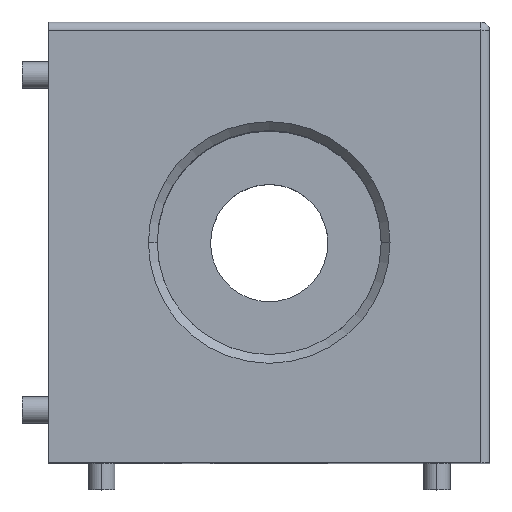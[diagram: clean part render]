
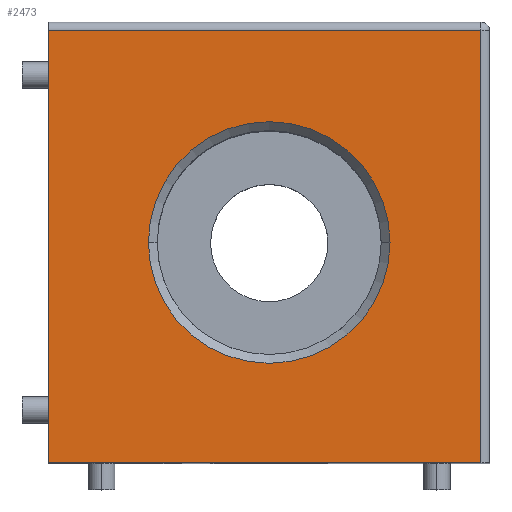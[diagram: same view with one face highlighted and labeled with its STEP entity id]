
A CAD part, top view. The second image highlights one B-rep face of the part: STEP entity #2473.
In plain terms, the highlighted planar face has unit normal (0, 0, 1).
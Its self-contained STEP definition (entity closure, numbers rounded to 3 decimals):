
#91 = AXIS2_PLACEMENT_3D ( 'NONE', #769, #1861, #185 ) ;
#118 = CARTESIAN_POINT ( 'NONE',  ( -12.5, -12.5, 12.5 ) ) ;
#185 = DIRECTION ( 'NONE',  ( -1., 0., 0. ) ) ;
#201 = VECTOR ( 'NONE', #1009, 1000. ) ;
#421 = EDGE_CURVE ( 'NONE', #1527, #2511, #2267, .T. ) ;
#495 = VERTEX_POINT ( 'NONE', #2709 ) ;
#588 = CARTESIAN_POINT ( 'NONE',  ( 0., 0., 12.5 ) ) ;
#636 = DIRECTION ( 'NONE',  ( 1., 0., 0. ) ) ;
#683 = CARTESIAN_POINT ( 'NONE',  ( 12., -12.5, 12.5 ) ) ;
#709 = ORIENTED_EDGE ( 'NONE', *, *, #1048, .T. ) ;
#769 = CARTESIAN_POINT ( 'NONE',  ( 0., 0., 12.5 ) ) ;
#895 = VERTEX_POINT ( 'NONE', #1099 ) ;
#1009 = DIRECTION ( 'NONE',  ( -1., 0., 0. ) ) ;
#1041 = CARTESIAN_POINT ( 'NONE',  ( -12.5, 12., 12.5 ) ) ;
#1048 = EDGE_CURVE ( 'NONE', #895, #495, #2786, .T. ) ;
#1099 = CARTESIAN_POINT ( 'NONE',  ( 6.85, 0., 12.5 ) ) ;
#1181 = CARTESIAN_POINT ( 'NONE',  ( 12., 12., 12.5 ) ) ;
#1182 = ORIENTED_EDGE ( 'NONE', *, *, #421, .T. ) ;
#1227 = DIRECTION ( 'NONE',  ( 0., 0., -1. ) ) ;
#1247 = AXIS2_PLACEMENT_3D ( 'NONE', #588, #2844, #1684 ) ;
#1274 = EDGE_CURVE ( 'NONE', #2511, #1884, #1332, .T. ) ;
#1297 = VECTOR ( 'NONE', #1869, 1000. ) ;
#1332 = LINE ( 'NONE', #2419, #1468 ) ;
#1377 = EDGE_LOOP ( 'NONE', ( #1182, #1633, #2636, #3383 ) ) ;
#1468 = VECTOR ( 'NONE', #2983, 1000. ) ;
#1497 = PLANE ( 'NONE',  #3447 ) ;
#1516 = CARTESIAN_POINT ( 'NONE',  ( -12.5, 12.5, 12.5 ) ) ;
#1527 = VERTEX_POINT ( 'NONE', #118 ) ;
#1544 = EDGE_LOOP ( 'NONE', ( #709, #2555 ) ) ;
#1622 = LINE ( 'NONE', #3299, #1297 ) ;
#1633 = ORIENTED_EDGE ( 'NONE', *, *, #1274, .T. ) ;
#1684 = DIRECTION ( 'NONE',  ( -1., 0., 0. ) ) ;
#1747 = CARTESIAN_POINT ( 'NONE',  ( -12.5, 12., 12.5 ) ) ;
#1861 = DIRECTION ( 'NONE',  ( 0., 0., -1. ) ) ;
#1869 = DIRECTION ( 'NONE',  ( 0., -1., 0. ) ) ;
#1884 = VERTEX_POINT ( 'NONE', #1181 ) ;
#2018 = FACE_BOUND ( 'NONE', #1544, .T. ) ;
#2098 = VERTEX_POINT ( 'NONE', #1747 ) ;
#2246 = EDGE_CURVE ( 'NONE', #1884, #2098, #3264, .T. ) ;
#2267 = LINE ( 'NONE', #2287, #3429 ) ;
#2270 = FACE_OUTER_BOUND ( 'NONE', #1377, .T. ) ;
#2287 = CARTESIAN_POINT ( 'NONE',  ( -12.5, -12.5, 12.5 ) ) ;
#2419 = CARTESIAN_POINT ( 'NONE',  ( 12., 12.5, 12.5 ) ) ;
#2473 = ADVANCED_FACE ( 'NONE', ( #2018, #2270 ), #1497, .F. ) ;
#2511 = VERTEX_POINT ( 'NONE', #683 ) ;
#2555 = ORIENTED_EDGE ( 'NONE', *, *, #2641, .T. ) ;
#2636 = ORIENTED_EDGE ( 'NONE', *, *, #2246, .T. ) ;
#2641 = EDGE_CURVE ( 'NONE', #495, #895, #3445, .T. ) ;
#2709 = CARTESIAN_POINT ( 'NONE',  ( -6.85, 0., 12.5 ) ) ;
#2786 = CIRCLE ( 'NONE', #1247, 6.85 ) ;
#2844 = DIRECTION ( 'NONE',  ( 0., 0., -1. ) ) ;
#2983 = DIRECTION ( 'NONE',  ( 0., 1., 0. ) ) ;
#3264 = LINE ( 'NONE', #1041, #201 ) ;
#3299 = CARTESIAN_POINT ( 'NONE',  ( -12.5, 12.5, 12.5 ) ) ;
#3365 = DIRECTION ( 'NONE',  ( -1., 0., 0. ) ) ;
#3383 = ORIENTED_EDGE ( 'NONE', *, *, #3532, .T. ) ;
#3429 = VECTOR ( 'NONE', #636, 1000. ) ;
#3445 = CIRCLE ( 'NONE', #91, 6.85 ) ;
#3447 = AXIS2_PLACEMENT_3D ( 'NONE', #1516, #1227, #3365 ) ;
#3532 = EDGE_CURVE ( 'NONE', #2098, #1527, #1622, .T. ) ;
